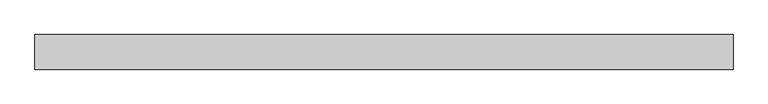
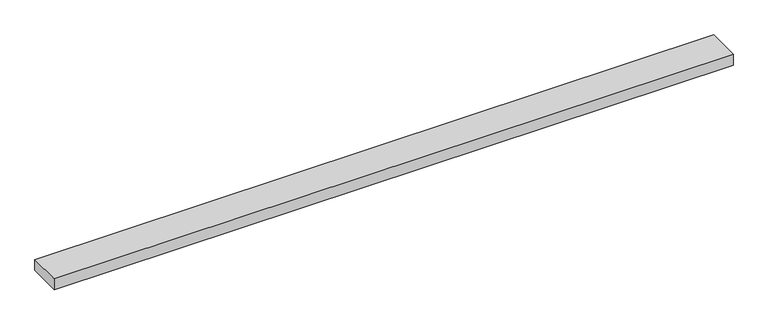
"""IFC4 building model written with IfcOpenShell, lengths in millimetres: proxy geometry, Vita_Решетка : РАП_Алюминиевая продольная."""

from ifc_helpers import new_model, si_unit, frame, origin, place, context, project, spatial, polyline, outline, extrude, source, transform, mapped, element, save


def mechanical_equipment_40654a80(model_context):
    return source(origin(), model_context, "Body", "SweptSolid", [
        extrude(outline(polyline([(-599.0, -112.8), (599.0, -112.8), (599.0, -172.2), (-599.0, -172.2), (-599.0, -112.8)])), frame((0.0, 0.0, 209.83), z_axis=(0.0, 0.0, 1.0), x_axis=(1.0, 0.0, 0.0)), (0.0, 0.0, 1.0), 20.17),
    ])


if __name__ == "__main__":
    model = new_model("IFC4")
    model_context = context("Model", 3, world=origin())
    ifc_project = project(units=[si_unit("LENGTHUNIT", "METRE", prefix="MILLI")], contexts=[model_context])
    site = spatial("IfcSite", under=ifc_project)
    building = spatial("IfcBuilding", under=site)
    placement = place(None, origin())
    mechanical_equipment_shape = mechanical_equipment_40654a80(model_context)
    element("IfcBuildingElementProxy", 1, Name="Vita_Решетка : РАП_Алюминиевая продольная", ObjectType="Vita_Решетка : РАП_Алюминиевая продольная", at=placement, inside=building, context=model_context, shape_type="MappedRepresentation", body=[
        mapped(mechanical_equipment_shape, transform((0.0, 0.0, 0.0), x_axis=(1.0, 0.0, 0.0), y_axis=(0.0, 1.0, 0.0), z_axis=(0.0, 0.0, 1.0))),
    ])
    save(model, "model.ifc")
